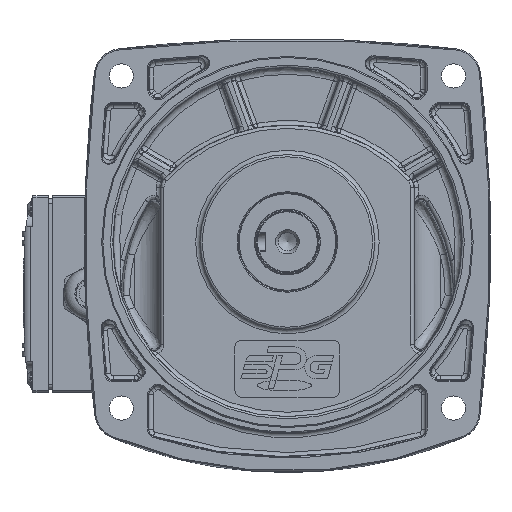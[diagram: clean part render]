
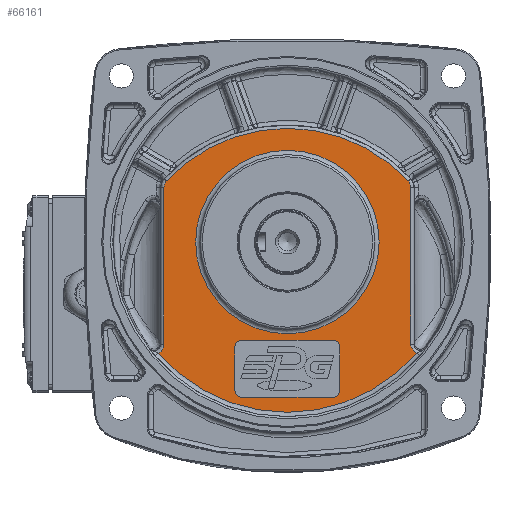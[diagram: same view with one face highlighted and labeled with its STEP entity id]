
A CAD part, top view. The second image highlights one B-rep face of the part: STEP entity #66161.
In plain terms, the highlighted planar face has unit normal (0, 0, 1).
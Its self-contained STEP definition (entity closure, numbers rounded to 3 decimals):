
#1669=FACE_BOUND('',#10520,.T.);
#1670=FACE_BOUND('',#10521,.T.);
#2565=PLANE('',#72369);
#6495=FACE_OUTER_BOUND('',#10519,.T.);
#10519=EDGE_LOOP('',(#54076,#54077,#54078,#54079,#54080,#54081,#54082,#54083));
#10520=EDGE_LOOP('',(#54084,#54085,#54086,#54087,#54088,#54089,#54090,#54091));
#10521=EDGE_LOOP('',(#54092));
#14364=CIRCLE('',#72173,75.535);
#14389=CIRCLE('',#72211,42.);
#14488=CIRCLE('',#72370,77.963);
#14489=CIRCLE('',#72371,3.);
#14490=CIRCLE('',#72372,3.);
#14491=CIRCLE('',#72373,3.);
#14492=CIRCLE('',#72374,3.);
#17450=LINE('',#141533,#20628);
#17451=LINE('',#141599,#20629);
#17508=LINE('',#143781,#20686);
#17509=LINE('',#143785,#20687);
#17510=LINE('',#143789,#20688);
#17511=LINE('',#143793,#20689);
#20628=VECTOR('',#86164,10.);
#20629=VECTOR('',#86181,10.);
#20686=VECTOR('',#86624,10.);
#20687=VECTOR('',#86627,10.);
#20688=VECTOR('',#86630,10.);
#20689=VECTOR('',#86633,10.);
#23453=B_SPLINE_CURVE_WITH_KNOTS('',3,(#141562,#141563,#141564,#141565),
 .UNSPECIFIED.,.F.,.F.,(4,4),(0.,0.336),.UNSPECIFIED.);
#23454=B_SPLINE_CURVE_WITH_KNOTS('',3,(#141593,#141594,#141595,#141596),
 .UNSPECIFIED.,.F.,.F.,(4,4),(0.,0.336),.UNSPECIFIED.);
#23456=B_SPLINE_CURVE_WITH_KNOTS('',3,(#141649,#141650,#141651,#141652,
#141653),.UNSPECIFIED.,.F.,.F.,(4,1,4),(0.,0.318,0.51),
 .UNSPECIFIED.);
#23563=B_SPLINE_CURVE_WITH_KNOTS('',3,(#143774,#143775,#143776,#143777,
#143778),.UNSPECIFIED.,.F.,.F.,(4,1,4),(0.603,0.795,
1.113),.UNSPECIFIED.);
#28350=VERTEX_POINT('',#141530);
#28351=VERTEX_POINT('',#141532);
#28353=VERTEX_POINT('',#141556);
#28354=VERTEX_POINT('',#141567);
#28355=VERTEX_POINT('',#141591);
#28356=VERTEX_POINT('',#141598);
#28357=VERTEX_POINT('',#141636);
#28389=VERTEX_POINT('',#141820);
#28526=VERTEX_POINT('',#143772);
#28527=VERTEX_POINT('',#143779);
#28528=VERTEX_POINT('',#143780);
#28529=VERTEX_POINT('',#143782);
#28530=VERTEX_POINT('',#143784);
#28531=VERTEX_POINT('',#143786);
#28532=VERTEX_POINT('',#143788);
#28533=VERTEX_POINT('',#143790);
#28534=VERTEX_POINT('',#143792);
#36993=EDGE_CURVE('',#28350,#28351,#17450,.T.);
#36997=EDGE_CURVE('',#28351,#28353,#23453,.T.);
#36998=EDGE_CURVE('',#28353,#28354,#14364,.T.);
#37002=EDGE_CURVE('',#28354,#28355,#23454,.T.);
#37003=EDGE_CURVE('',#28355,#28356,#17451,.T.);
#37006=EDGE_CURVE('',#28356,#28357,#23456,.T.);
#37049=EDGE_CURVE('',#28389,#28389,#14389,.T.);
#37288=EDGE_CURVE('',#28357,#28526,#14488,.T.);
#37289=EDGE_CURVE('',#28526,#28350,#23563,.T.);
#37290=EDGE_CURVE('',#28527,#28528,#17508,.T.);
#37291=EDGE_CURVE('',#28529,#28528,#14489,.T.);
#37292=EDGE_CURVE('',#28529,#28530,#17509,.T.);
#37293=EDGE_CURVE('',#28531,#28530,#14490,.T.);
#37294=EDGE_CURVE('',#28531,#28532,#17510,.T.);
#37295=EDGE_CURVE('',#28533,#28532,#14491,.T.);
#37296=EDGE_CURVE('',#28533,#28534,#17511,.T.);
#37297=EDGE_CURVE('',#28527,#28534,#14492,.T.);
#54076=ORIENTED_EDGE('',*,*,#37288,.F.);
#54077=ORIENTED_EDGE('',*,*,#37006,.F.);
#54078=ORIENTED_EDGE('',*,*,#37003,.F.);
#54079=ORIENTED_EDGE('',*,*,#37002,.F.);
#54080=ORIENTED_EDGE('',*,*,#36998,.F.);
#54081=ORIENTED_EDGE('',*,*,#36997,.F.);
#54082=ORIENTED_EDGE('',*,*,#36993,.F.);
#54083=ORIENTED_EDGE('',*,*,#37289,.F.);
#54084=ORIENTED_EDGE('',*,*,#37290,.T.);
#54085=ORIENTED_EDGE('',*,*,#37291,.F.);
#54086=ORIENTED_EDGE('',*,*,#37292,.T.);
#54087=ORIENTED_EDGE('',*,*,#37293,.F.);
#54088=ORIENTED_EDGE('',*,*,#37294,.T.);
#54089=ORIENTED_EDGE('',*,*,#37295,.F.);
#54090=ORIENTED_EDGE('',*,*,#37296,.T.);
#54091=ORIENTED_EDGE('',*,*,#37297,.F.);
#54092=ORIENTED_EDGE('',*,*,#37049,.F.);
#66161=ADVANCED_FACE('',(#6495,#1669,#1670),#2565,.F.);
#72173=AXIS2_PLACEMENT_3D('',#141568,#86171,#86172);
#72211=AXIS2_PLACEMENT_3D('',#141822,#86265,#86266);
#72369=AXIS2_PLACEMENT_3D('',#143771,#86620,#86621);
#72370=AXIS2_PLACEMENT_3D('',#143773,#86622,#86623);
#72371=AXIS2_PLACEMENT_3D('',#143783,#86625,#86626);
#72372=AXIS2_PLACEMENT_3D('',#143787,#86628,#86629);
#72373=AXIS2_PLACEMENT_3D('',#143791,#86631,#86632);
#72374=AXIS2_PLACEMENT_3D('',#143794,#86634,#86635);
#86164=DIRECTION('',(0.,1.,0.));
#86171=DIRECTION('center_axis',(0.,0.,-1.));
#86172=DIRECTION('ref_axis',(0.,1.,0.));
#86181=DIRECTION('',(0.,-1.,0.));
#86265=DIRECTION('center_axis',(0.,0.,1.));
#86266=DIRECTION('ref_axis',(-1.,0.,0.));
#86620=DIRECTION('center_axis',(0.,0.,-1.));
#86621=DIRECTION('ref_axis',(-1.,0.,0.));
#86622=DIRECTION('center_axis',(0.,0.,-1.));
#86623=DIRECTION('ref_axis',(0.,-1.,0.));
#86624=DIRECTION('',(0.,1.,0.));
#86625=DIRECTION('center_axis',(0.,0.,1.));
#86626=DIRECTION('ref_axis',(-0.707,0.707,0.));
#86627=DIRECTION('',(1.,0.,0.));
#86628=DIRECTION('center_axis',(0.,0.,1.));
#86629=DIRECTION('ref_axis',(0.707,0.707,0.));
#86630=DIRECTION('',(0.,-1.,0.));
#86631=DIRECTION('center_axis',(0.,0.,1.));
#86632=DIRECTION('ref_axis',(0.707,-0.707,0.));
#86633=DIRECTION('',(-1.,0.,0.));
#86634=DIRECTION('center_axis',(0.,0.,1.));
#86635=DIRECTION('ref_axis',(-0.707,-0.707,0.));
#141530=CARTESIAN_POINT('',(-53.609,-23.142,56.));
#141532=CARTESIAN_POINT('',(-53.609,48.472,56.));
#141533=CARTESIAN_POINT('',(-53.609,-35.67,56.));
#141556=CARTESIAN_POINT('',(-52.402,51.541,56.));
#141562=CARTESIAN_POINT('Ctrl Pts',(-53.609,48.472,56.));
#141563=CARTESIAN_POINT('Ctrl Pts',(-53.609,49.591,56.));
#141564=CARTESIAN_POINT('Ctrl Pts',(-53.165,50.722,
56.));
#141565=CARTESIAN_POINT('Ctrl Pts',(-52.402,51.541,
56.));
#141567=CARTESIAN_POINT('',(58.184,51.541,56.));
#141568=CARTESIAN_POINT('Origin',(2.891,0.08,56.));
#141591=CARTESIAN_POINT('',(59.391,48.472,56.));
#141593=CARTESIAN_POINT('Ctrl Pts',(58.184,51.541,56.));
#141594=CARTESIAN_POINT('Ctrl Pts',(58.946,50.722,56.));
#141595=CARTESIAN_POINT('Ctrl Pts',(59.391,49.591,56.));
#141596=CARTESIAN_POINT('Ctrl Pts',(59.391,48.472,56.));
#141598=CARTESIAN_POINT('',(59.391,-23.142,56.));
#141599=CARTESIAN_POINT('',(59.391,-35.67,56.));
#141636=CARTESIAN_POINT('',(62.014,-27.239,56.));
#141649=CARTESIAN_POINT('Ctrl Pts',(59.391,-23.142,
56.));
#141650=CARTESIAN_POINT('Ctrl Pts',(59.391,-24.202,
56.));
#141651=CARTESIAN_POINT('Ctrl Pts',(60.023,-25.914,
56.));
#141652=CARTESIAN_POINT('Ctrl Pts',(61.43,-26.963,
56.));
#141653=CARTESIAN_POINT('Ctrl Pts',(62.016,-27.235,
56.));
#141820=CARTESIAN_POINT('',(44.891,23.58,56.));
#141822=CARTESIAN_POINT('Origin',(2.891,23.58,56.));
#143771=CARTESIAN_POINT('Origin',(2.891,0.08,56.));
#143772=CARTESIAN_POINT('',(-56.233,-27.239,56.));
#143773=CARTESIAN_POINT('Origin',(2.891,23.58,56.));
#143774=CARTESIAN_POINT('Ctrl Pts',(-56.235,-27.235,
56.));
#143775=CARTESIAN_POINT('Ctrl Pts',(-55.648,-26.963,
56.));
#143776=CARTESIAN_POINT('Ctrl Pts',(-54.241,-25.914,
56.));
#143777=CARTESIAN_POINT('Ctrl Pts',(-53.609,-24.202,
56.));
#143778=CARTESIAN_POINT('Ctrl Pts',(-53.609,-23.142,56.));
#143779=CARTESIAN_POINT('',(-21.109,-44.42,56.));
#143780=CARTESIAN_POINT('',(-21.109,-24.42,56.));
#143781=CARTESIAN_POINT('',(-21.109,-10.67,56.));
#143782=CARTESIAN_POINT('',(-18.109,-21.42,56.));
#143783=CARTESIAN_POINT('Origin',(-18.109,-24.42,56.));
#143784=CARTESIAN_POINT('',(23.891,-21.42,56.));
#143785=CARTESIAN_POINT('',(14.891,-21.42,56.));
#143786=CARTESIAN_POINT('',(26.891,-24.42,56.));
#143787=CARTESIAN_POINT('Origin',(23.891,-24.42,56.));
#143788=CARTESIAN_POINT('',(26.891,-44.42,56.));
#143789=CARTESIAN_POINT('',(26.891,-23.67,56.));
#143790=CARTESIAN_POINT('',(23.891,-47.42,56.));
#143791=CARTESIAN_POINT('Origin',(23.891,-44.42,56.));
#143792=CARTESIAN_POINT('',(-18.109,-47.42,56.));
#143793=CARTESIAN_POINT('',(-9.109,-47.42,56.));
#143794=CARTESIAN_POINT('Origin',(-18.109,-44.42,56.));
